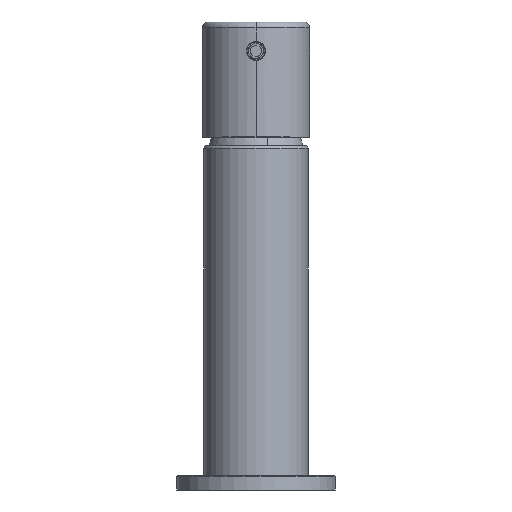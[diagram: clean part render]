
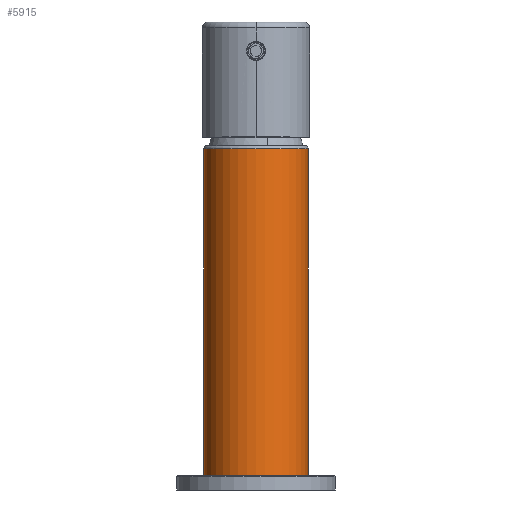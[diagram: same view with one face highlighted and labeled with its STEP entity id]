
A CAD part, front view. The second image highlights one B-rep face of the part: STEP entity #5915.
In plain terms, the highlighted cylindrical face has radius 18 mm (diameter 36 mm), a partial arc.
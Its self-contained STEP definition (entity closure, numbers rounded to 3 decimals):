
#19 = CIRCLE ( 'NONE', #1573, 18. ) ;
#116 = VERTEX_POINT ( 'NONE', #5722 ) ;
#479 = LINE ( 'NONE', #7748, #7659 ) ;
#506 = EDGE_CURVE ( 'NONE', #2758, #116, #479, .T. ) ;
#707 = ORIENTED_EDGE ( 'NONE', *, *, #8823, .T. ) ;
#1197 = DIRECTION ( 'NONE',  ( 0., 0., 1. ) ) ;
#1573 = AXIS2_PLACEMENT_3D ( 'NONE', #7550, #1197, #10495 ) ;
#1808 = DIRECTION ( 'NONE',  ( 0., 0., 1. ) ) ;
#2225 = DIRECTION ( 'NONE',  ( 0., 0., 1. ) ) ;
#2570 = ORIENTED_EDGE ( 'NONE', *, *, #8086, .F. ) ;
#2758 = VERTEX_POINT ( 'NONE', #7944 ) ;
#3908 = EDGE_LOOP ( 'NONE', ( #2570, #707, #8863, #4530 ) ) ;
#4530 = ORIENTED_EDGE ( 'NONE', *, *, #9691, .T. ) ;
#4610 = VERTEX_POINT ( 'NONE', #7019 ) ;
#4717 = DIRECTION ( 'NONE',  ( 1., 0., 0. ) ) ;
#4849 = CARTESIAN_POINT ( 'NONE',  ( 0., 0., 113. ) ) ;
#5302 = AXIS2_PLACEMENT_3D ( 'NONE', #7797, #11468, #10267 ) ;
#5432 = CARTESIAN_POINT ( 'NONE',  ( -18., 0., 0. ) ) ;
#5608 = DIRECTION ( 'NONE',  ( 0., 0., -1. ) ) ;
#5722 = CARTESIAN_POINT ( 'NONE',  ( 18., 0., 113. ) ) ;
#5915 = ADVANCED_FACE ( 'NONE', ( #7739 ), #10506, .T. ) ;
#6141 = CARTESIAN_POINT ( 'NONE',  ( -18., 0., 113. ) ) ;
#6153 = VERTEX_POINT ( 'NONE', #6141 ) ;
#7019 = CARTESIAN_POINT ( 'NONE',  ( -18., 0., 0. ) ) ;
#7203 = LINE ( 'NONE', #5432, #10130 ) ;
#7550 = CARTESIAN_POINT ( 'NONE',  ( 0., 0., 0. ) ) ;
#7659 = VECTOR ( 'NONE', #2225, 1000. ) ;
#7739 = FACE_OUTER_BOUND ( 'NONE', #3908, .T. ) ;
#7748 = CARTESIAN_POINT ( 'NONE',  ( 18., 0., 0. ) ) ;
#7797 = CARTESIAN_POINT ( 'NONE',  ( 0., 0., 0. ) ) ;
#7944 = CARTESIAN_POINT ( 'NONE',  ( 18., 0., 0. ) ) ;
#8086 = EDGE_CURVE ( 'NONE', #4610, #6153, #7203, .T. ) ;
#8823 = EDGE_CURVE ( 'NONE', #4610, #2758, #19, .T. ) ;
#8863 = ORIENTED_EDGE ( 'NONE', *, *, #506, .T. ) ;
#9691 = EDGE_CURVE ( 'NONE', #116, #6153, #9894, .T. ) ;
#9894 = CIRCLE ( 'NONE', #10291, 18. ) ;
#10130 = VECTOR ( 'NONE', #1808, 1000. ) ;
#10267 = DIRECTION ( 'NONE',  ( 1., 0., 0. ) ) ;
#10291 = AXIS2_PLACEMENT_3D ( 'NONE', #4849, #5608, #4717 ) ;
#10495 = DIRECTION ( 'NONE',  ( 1., 0., 0. ) ) ;
#10506 = CYLINDRICAL_SURFACE ( 'NONE', #5302, 18. ) ;
#11468 = DIRECTION ( 'NONE',  ( 0., 0., 1. ) ) ;
